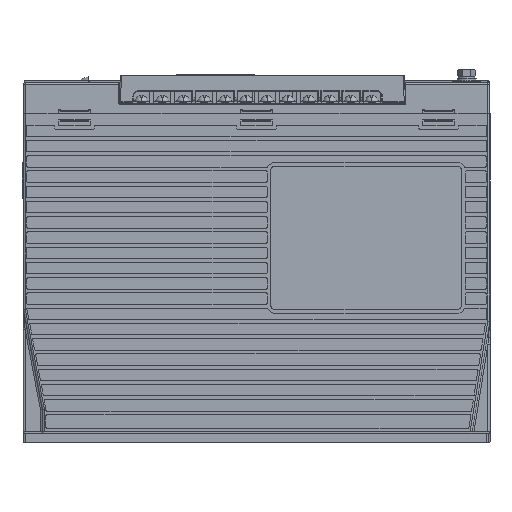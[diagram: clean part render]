
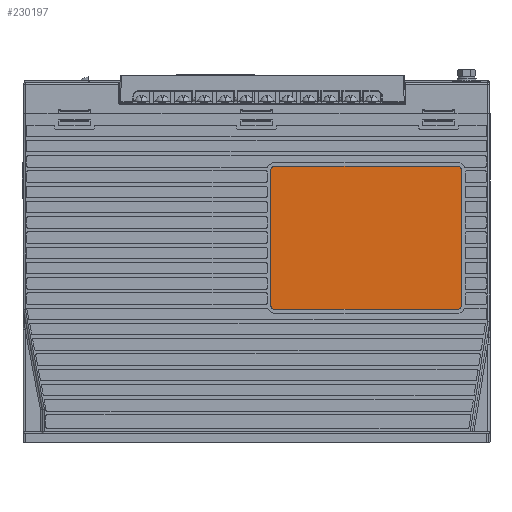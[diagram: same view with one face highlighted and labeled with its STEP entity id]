
A CAD part, left-side view. The second image highlights one B-rep face of the part: STEP entity #230197.
In plain terms, the highlighted planar face has unit normal (-1, 0, 0).
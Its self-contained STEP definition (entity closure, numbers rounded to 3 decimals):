
#90640=DIRECTION('',(0.,0.,-1.));
#90641=VECTOR('',#90640,71.);
#90642=CARTESIAN_POINT('',(0.3,-7.5,142.8));
#90643=LINE('',#90642,#90641);
#90661=DIRECTION('',(0.,1.,0.));
#90662=VECTOR('',#90661,96.);
#90663=CARTESIAN_POINT('',(0.3,-105.5,144.8));
#90664=LINE('',#90663,#90662);
#90668=DIRECTION('',(0.,-1.,0.));
#90669=VECTOR('',#90668,96.);
#90670=CARTESIAN_POINT('',(0.3,-9.5,69.8));
#90671=LINE('',#90670,#90669);
#90690=CARTESIAN_POINT('',(0.3,-9.5,71.8));
#90691=DIRECTION('',(-1.,0.,0.));
#90692=DIRECTION('',(0.,1.,0.));
#90693=AXIS2_PLACEMENT_3D('',#90690,#90691,#90692);
#90712=CARTESIAN_POINT('',(0.3,-105.5,71.8));
#90713=DIRECTION('',(-1.,0.,0.));
#90714=DIRECTION('',(0.,0.,-1.));
#90715=AXIS2_PLACEMENT_3D('',#90712,#90713,#90714);
#90728=DIRECTION('',(0.,0.,1.));
#90729=VECTOR('',#90728,71.);
#90730=CARTESIAN_POINT('',(0.3,-107.5,71.8));
#90731=LINE('',#90730,#90729);
#90764=CARTESIAN_POINT('',(0.3,-105.5,142.8));
#90765=DIRECTION('',(-1.,0.,0.));
#90766=DIRECTION('',(0.,-1.,0.));
#90767=AXIS2_PLACEMENT_3D('',#90764,#90765,#90766);
#90786=CARTESIAN_POINT('',(0.3,-9.5,142.8));
#90787=DIRECTION('',(-1.,0.,0.));
#90788=DIRECTION('',(0.,0.,1.));
#90789=AXIS2_PLACEMENT_3D('',#90786,#90787,#90788);
#143673=CARTESIAN_POINT('',(0.3,-9.5,69.8));
#143675=VERTEX_POINT('',#143673);
#143677=CARTESIAN_POINT('',(0.3,-9.5,144.8));
#143679=VERTEX_POINT('',#143677);
#143681=CARTESIAN_POINT('',(0.3,-105.5,144.8));
#143683=VERTEX_POINT('',#143681);
#143685=CARTESIAN_POINT('',(0.3,-105.5,69.8));
#143687=VERTEX_POINT('',#143685);
#143804=CARTESIAN_POINT('',(0.3,-7.5,142.8));
#143806=VERTEX_POINT('',#143804);
#143808=CARTESIAN_POINT('',(0.3,-107.5,142.8));
#143810=VERTEX_POINT('',#143808);
#145320=CARTESIAN_POINT('',(0.3,-7.5,71.8));
#145322=VERTEX_POINT('',#145320);
#145324=CARTESIAN_POINT('',(0.3,-107.5,71.8));
#145326=VERTEX_POINT('',#145324);
#230175=CARTESIAN_POINT('',(0.3,0.,5.));
#230176=DIRECTION('',(-1.,0.,0.));
#230177=DIRECTION('',(0.,0.,1.));
#230178=AXIS2_PLACEMENT_3D('',#230175,#230176,#230177);
#230179=PLANE('',#230178);
#230181=ORIENTED_EDGE('',*,*,#230180,.F.);
#230182=ORIENTED_EDGE('',*,*,#230165,.F.);
#230184=ORIENTED_EDGE('',*,*,#230183,.F.);
#230186=ORIENTED_EDGE('',*,*,#230185,.F.);
#230188=ORIENTED_EDGE('',*,*,#230187,.F.);
#230190=ORIENTED_EDGE('',*,*,#230189,.F.);
#230192=ORIENTED_EDGE('',*,*,#230191,.F.);
#230194=ORIENTED_EDGE('',*,*,#230193,.F.);
#230195=EDGE_LOOP('',(#230181,#230182,#230184,#230186,#230188,#230190,#230192,
#230194));
#230196=FACE_OUTER_BOUND('',#230195,.F.);
#90694=CIRCLE('',#90693,2.);
#90716=CIRCLE('',#90715,2.);
#90768=CIRCLE('',#90767,2.);
#90790=CIRCLE('',#90789,2.);
#230165=EDGE_CURVE('',#143806,#145322,#90643,.T.);
#230180=EDGE_CURVE('',#145322,#143675,#90694,.T.);
#230183=EDGE_CURVE('',#143679,#143806,#90790,.T.);
#230185=EDGE_CURVE('',#143683,#143679,#90664,.T.);
#230187=EDGE_CURVE('',#143810,#143683,#90768,.T.);
#230189=EDGE_CURVE('',#145326,#143810,#90731,.T.);
#230191=EDGE_CURVE('',#143687,#145326,#90716,.T.);
#230193=EDGE_CURVE('',#143675,#143687,#90671,.T.);
#230197=ADVANCED_FACE('',(#230196),#230179,.T.);
